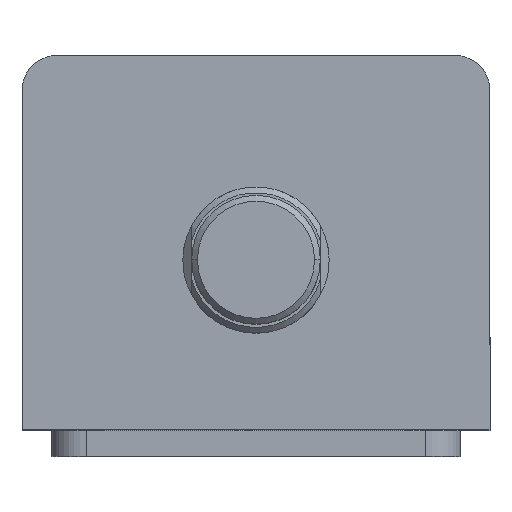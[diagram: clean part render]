
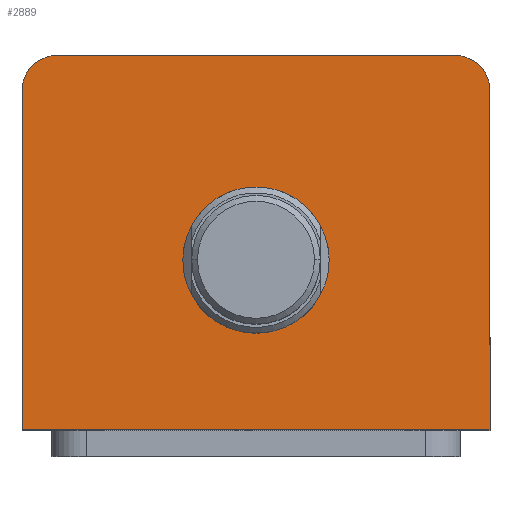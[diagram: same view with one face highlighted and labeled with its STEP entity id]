
A CAD part, top view. The second image highlights one B-rep face of the part: STEP entity #2889.
In plain terms, the highlighted planar face has unit normal (0, 0, 1).
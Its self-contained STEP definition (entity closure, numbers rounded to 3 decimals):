
#78 = DIRECTION ( 'NONE',  ( 1., 0., 0. ) ) ;
#83 = PLANE ( 'NONE',  #2714 ) ;
#85 = DIRECTION ( 'NONE',  ( 0., 0., 1. ) ) ;
#88 = CARTESIAN_POINT ( 'NONE',  ( 0., 0., 80. ) ) ;
#304 = DIRECTION ( 'NONE',  ( 1., 0., 0. ) ) ;
#307 = DIRECTION ( 'NONE',  ( 0., 0., 1. ) ) ;
#309 = CARTESIAN_POINT ( 'NONE',  ( 0., -3., 80. ) ) ;
#351 = CARTESIAN_POINT ( 'NONE',  ( -40., 32., 80. ) ) ;
#375 = DIRECTION ( 'NONE',  ( 0., -1., 0. ) ) ;
#395 = DIRECTION ( 'NONE',  ( 1., 0., 0. ) ) ;
#396 = DIRECTION ( 'NONE',  ( 0., 0., 1. ) ) ;
#400 = CARTESIAN_POINT ( 'NONE',  ( -34., 26., 80. ) ) ;
#457 = DIRECTION ( 'NONE',  ( 1., 0., 0. ) ) ;
#459 = DIRECTION ( 'NONE',  ( 0., 0., 1. ) ) ;
#460 = CARTESIAN_POINT ( 'NONE',  ( 34., 26., 80. ) ) ;
#637 = FACE_BOUND ( 'NONE', #1787, .T. ) ;
#645 = FACE_OUTER_BOUND ( 'NONE', #1777, .T. ) ;
#1128 = CIRCLE ( 'NONE', #2571, 12.5 ) ;
#1167 = LINE ( 'NONE', #3718, #1174 ) ;
#1174 = VECTOR ( 'NONE', #3699, 1000. ) ;
#1200 = LINE ( 'NONE', #3633, #1203 ) ;
#1203 = VECTOR ( 'NONE', #3629, 1000. ) ;
#1239 = LINE ( 'NONE', #3573, #1242 ) ;
#1242 = VECTOR ( 'NONE', #3569, 1000. ) ;
#1246 = CIRCLE ( 'NONE', #2598, 6. ) ;
#1259 = CIRCLE ( 'NONE', #2605, 6. ) ;
#1265 = LINE ( 'NONE', #351, #1268 ) ;
#1268 = VECTOR ( 'NONE', #375, 1000. ) ;
#1291 = CIRCLE ( 'NONE', #2607, 12.5 ) ;
#1496 = ORIENTED_EDGE ( 'NONE', *, *, #2301, .T. ) ;
#1497 = ORIENTED_EDGE ( 'NONE', *, *, #2293, .T. ) ;
#1498 = ORIENTED_EDGE ( 'NONE', *, *, #2256, .T. ) ;
#1499 = ORIENTED_EDGE ( 'NONE', *, *, #2314, .T. ) ;
#1500 = ORIENTED_EDGE ( 'NONE', *, *, #2310, .T. ) ;
#1501 = ORIENTED_EDGE ( 'NONE', *, *, #2273, .T. ) ;
#1502 = ORIENTED_EDGE ( 'NONE', *, *, #2228, .F. ) ;
#1503 = ORIENTED_EDGE ( 'NONE', *, *, #2327, .F. ) ;
#1777 = EDGE_LOOP ( 'NONE', ( #1501, #1500, #1499, #1498, #1497, #1496 ) ) ;
#1787 = EDGE_LOOP ( 'NONE', ( #1503, #1502 ) ) ;
#1918 = VERTEX_POINT ( 'NONE', #2995 ) ;
#1959 = VERTEX_POINT ( 'NONE', #2952 ) ;
#1987 = VERTEX_POINT ( 'NONE', #2917 ) ;
#1989 = VERTEX_POINT ( 'NONE', #2915 ) ;
#1993 = VERTEX_POINT ( 'NONE', #2911 ) ;
#2033 = VERTEX_POINT ( 'NONE', #3736 ) ;
#2054 = VERTEX_POINT ( 'NONE', #3708 ) ;
#2058 = VERTEX_POINT ( 'NONE', #3692 ) ;
#2228 = EDGE_CURVE ( 'NONE', #1959, #2033, #1128, .T. ) ;
#2256 = EDGE_CURVE ( 'NONE', #1993, #1989, #1167, .T. ) ;
#2273 = EDGE_CURVE ( 'NONE', #1918, #1987, #1200, .T. ) ;
#2293 = EDGE_CURVE ( 'NONE', #1989, #2054, #1239, .T. ) ;
#2301 = EDGE_CURVE ( 'NONE', #2054, #1918, #1246, .T. ) ;
#2310 = EDGE_CURVE ( 'NONE', #1987, #2058, #1259, .T. ) ;
#2314 = EDGE_CURVE ( 'NONE', #2058, #1993, #1265, .T. ) ;
#2327 = EDGE_CURVE ( 'NONE', #2033, #1959, #1291, .T. ) ;
#2571 = AXIS2_PLACEMENT_3D ( 'NONE', #3576, #3586, #3583 ) ;
#2598 = AXIS2_PLACEMENT_3D ( 'NONE', #460, #459, #457 ) ;
#2605 = AXIS2_PLACEMENT_3D ( 'NONE', #400, #396, #395 ) ;
#2607 = AXIS2_PLACEMENT_3D ( 'NONE', #309, #307, #304 ) ;
#2714 = AXIS2_PLACEMENT_3D ( 'NONE', #88, #85, #78 ) ;
#2889 = ADVANCED_FACE ( 'NONE', ( #637, #645 ), #83, .T. ) ;
#2911 = CARTESIAN_POINT ( 'NONE',  ( -40., -32., 80. ) ) ;
#2915 = CARTESIAN_POINT ( 'NONE',  ( 40., -32., 80. ) ) ;
#2917 = CARTESIAN_POINT ( 'NONE',  ( -34., 32., 80. ) ) ;
#2952 = CARTESIAN_POINT ( 'NONE',  ( -12.5, -3., 80. ) ) ;
#2995 = CARTESIAN_POINT ( 'NONE',  ( 34., 32., 80. ) ) ;
#3569 = DIRECTION ( 'NONE',  ( 0., 1., 0. ) ) ;
#3573 = CARTESIAN_POINT ( 'NONE',  ( 40., 32., 80. ) ) ;
#3576 = CARTESIAN_POINT ( 'NONE',  ( 0., -3., 80. ) ) ;
#3583 = DIRECTION ( 'NONE',  ( 1., 0., 0. ) ) ;
#3586 = DIRECTION ( 'NONE',  ( 0., 0., 1. ) ) ;
#3629 = DIRECTION ( 'NONE',  ( -1., 0., 0. ) ) ;
#3633 = CARTESIAN_POINT ( 'NONE',  ( -40., 32., 80. ) ) ;
#3692 = CARTESIAN_POINT ( 'NONE',  ( -40., 26., 80. ) ) ;
#3699 = DIRECTION ( 'NONE',  ( 1., 0., 0. ) ) ;
#3708 = CARTESIAN_POINT ( 'NONE',  ( 40., 26., 80. ) ) ;
#3718 = CARTESIAN_POINT ( 'NONE',  ( -40., -32., 80. ) ) ;
#3736 = CARTESIAN_POINT ( 'NONE',  ( 12.5, -3., 80. ) ) ;
